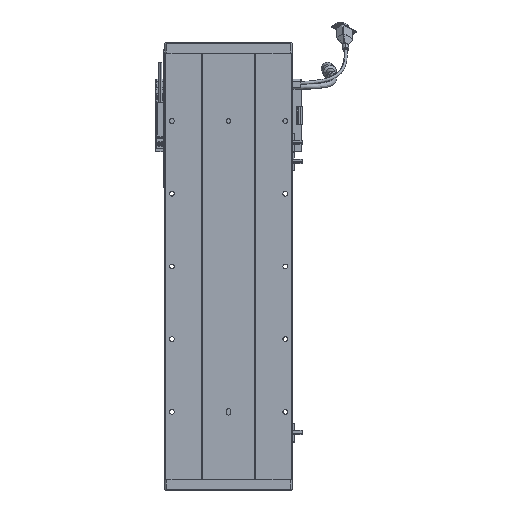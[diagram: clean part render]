
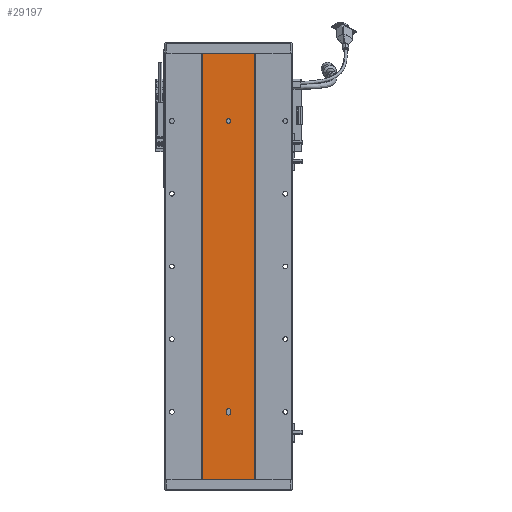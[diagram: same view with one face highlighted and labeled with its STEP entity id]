
A CAD part, front view. The second image highlights one B-rep face of the part: STEP entity #29197.
In plain terms, the highlighted planar face has unit normal (0, -1, 0).
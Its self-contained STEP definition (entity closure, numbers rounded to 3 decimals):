
#1334 = DIRECTION ( 'NONE',  ( 1., 0., 0. ) ) ;
#1369 = EDGE_LOOP ( 'NONE', ( #2979, #23431, #66218, #13831 ) ) ;
#2204 = CIRCLE ( 'NONE', #64458, 3. ) ;
#2272 = VERTEX_POINT ( 'NONE', #5736 ) ;
#2533 = AXIS2_PLACEMENT_3D ( 'NONE', #25632, #36740, #42675 ) ;
#2979 = ORIENTED_EDGE ( 'NONE', *, *, #44780, .T. ) ;
#3306 = CIRCLE ( 'NONE', #9857, 3. ) ;
#3794 = VERTEX_POINT ( 'NONE', #71679 ) ;
#5736 = CARTESIAN_POINT ( 'NONE',  ( 3280.529, 1415.701, 496.5 ) ) ;
#9106 = CARTESIAN_POINT ( 'NONE',  ( 3283.529, 1415.701, 95. ) ) ;
#9182 = CARTESIAN_POINT ( 'NONE',  ( 3280.529, 1415.701, 92. ) ) ;
#9857 = AXIS2_PLACEMENT_3D ( 'NONE', #48025, #70370, #25277 ) ;
#12422 = CARTESIAN_POINT ( 'NONE',  ( 3280.529, 1415.701, 89. ) ) ;
#13713 = FACE_BOUND ( 'NONE', #37572, .T. ) ;
#13831 = ORIENTED_EDGE ( 'NONE', *, *, #49521, .T. ) ;
#14676 = CIRCLE ( 'NONE', #64846, 3. ) ;
#14927 = VECTOR ( 'NONE', #24621, 1000. ) ;
#15120 = DIRECTION ( 'NONE',  ( 0., 1., 0. ) ) ;
#15617 = DIRECTION ( 'NONE',  ( 0., 0., 1. ) ) ;
#15790 = VECTOR ( 'NONE', #63359, 1000. ) ;
#17218 = AXIS2_PLACEMENT_3D ( 'NONE', #31940, #59837, #25774 ) ;
#17677 = CARTESIAN_POINT ( 'NONE',  ( 3280.529, 1415.701, 490.5 ) ) ;
#18105 = EDGE_CURVE ( 'NONE', #35696, #40310, #30809, .T. ) ;
#18967 = VECTOR ( 'NONE', #40368, 1000. ) ;
#19052 = CARTESIAN_POINT ( 'NONE',  ( 3280.529, 1415.701, 92. ) ) ;
#19737 = CIRCLE ( 'NONE', #2533, 3. ) ;
#20774 = EDGE_CURVE ( 'NONE', #3794, #31686, #14676, .T. ) ;
#21786 = EDGE_CURVE ( 'NONE', #31686, #35696, #2204, .T. ) ;
#23286 = CARTESIAN_POINT ( 'NONE',  ( 3244.748, 1415.701, 0. ) ) ;
#23431 = ORIENTED_EDGE ( 'NONE', *, *, #32796, .F. ) ;
#23646 = CARTESIAN_POINT ( 'NONE',  ( 3244.748, 1415.701, 587. ) ) ;
#24070 = CIRCLE ( 'NONE', #17218, 3. ) ;
#24607 = CARTESIAN_POINT ( 'NONE',  ( 3283.529, 1415.701, 95. ) ) ;
#24621 = DIRECTION ( 'NONE',  ( 1., 0., 0. ) ) ;
#24702 = EDGE_CURVE ( 'NONE', #66134, #3794, #29430, .T. ) ;
#25095 = ORIENTED_EDGE ( 'NONE', *, *, #58550, .F. ) ;
#25277 = DIRECTION ( 'NONE',  ( 0., 0., -1. ) ) ;
#25632 = CARTESIAN_POINT ( 'NONE',  ( 3280.529, 1415.701, 95. ) ) ;
#25774 = DIRECTION ( 'NONE',  ( 0., 0., -1. ) ) ;
#26406 = LINE ( 'NONE', #23646, #14927 ) ;
#27872 = LINE ( 'NONE', #40125, #18967 ) ;
#28985 = CARTESIAN_POINT ( 'NONE',  ( 3283.529, 1415.701, 92. ) ) ;
#29197 = ADVANCED_FACE ( 'NONE', ( #67575, #13713, #69321 ), #48513, .F. ) ;
#29428 = VERTEX_POINT ( 'NONE', #57576 ) ;
#29430 = LINE ( 'NONE', #34425, #62072 ) ;
#30020 = LINE ( 'NONE', #67160, #53004 ) ;
#30809 = LINE ( 'NONE', #24607, #15790 ) ;
#31191 = DIRECTION ( 'NONE',  ( 0., 0., -1. ) ) ;
#31686 = VERTEX_POINT ( 'NONE', #12422 ) ;
#31940 = CARTESIAN_POINT ( 'NONE',  ( 3280.529, 1415.701, 493.5 ) ) ;
#32796 = EDGE_CURVE ( 'NONE', #29428, #71663, #30020, .T. ) ;
#33393 = DIRECTION ( 'NONE',  ( 0., 0., -1. ) ) ;
#34126 = EDGE_CURVE ( 'NONE', #2272, #53222, #3306, .T. ) ;
#34425 = CARTESIAN_POINT ( 'NONE',  ( 3277.529, 1415.701, 95. ) ) ;
#35661 = DIRECTION ( 'NONE',  ( 0., -1., 0. ) ) ;
#35696 = VERTEX_POINT ( 'NONE', #28985 ) ;
#36134 = DIRECTION ( 'NONE',  ( 0., 0., -1. ) ) ;
#36381 = CARTESIAN_POINT ( 'NONE',  ( 3244.748, 1415.701, 587. ) ) ;
#36631 = DIRECTION ( 'NONE',  ( 0., -1., 0. ) ) ;
#36740 = DIRECTION ( 'NONE',  ( 0., -1., 0. ) ) ;
#37530 = ORIENTED_EDGE ( 'NONE', *, *, #24702, .F. ) ;
#37572 = EDGE_LOOP ( 'NONE', ( #25095, #63520 ) ) ;
#40125 = CARTESIAN_POINT ( 'NONE',  ( 3244.748, 1415.701, 587. ) ) ;
#40310 = VERTEX_POINT ( 'NONE', #9106 ) ;
#40368 = DIRECTION ( 'NONE',  ( 0., 0., -1. ) ) ;
#42675 = DIRECTION ( 'NONE',  ( 0., 0., -1. ) ) ;
#44780 = EDGE_CURVE ( 'NONE', #62058, #71663, #71396, .T. ) ;
#48025 = CARTESIAN_POINT ( 'NONE',  ( 3280.529, 1415.701, 493.5 ) ) ;
#48513 = PLANE ( 'NONE',  #68099 ) ;
#48894 = ORIENTED_EDGE ( 'NONE', *, *, #20774, .F. ) ;
#49521 = EDGE_CURVE ( 'NONE', #64510, #62058, #27872, .T. ) ;
#51635 = CARTESIAN_POINT ( 'NONE',  ( 3316.311, 1415.701, 0. ) ) ;
#53004 = VECTOR ( 'NONE', #33393, 1000. ) ;
#53222 = VERTEX_POINT ( 'NONE', #17677 ) ;
#53748 = CARTESIAN_POINT ( 'NONE',  ( 3244.748, 1415.701, 0. ) ) ;
#53817 = EDGE_LOOP ( 'NONE', ( #48894, #37530, #65119, #65499, #67753 ) ) ;
#57576 = CARTESIAN_POINT ( 'NONE',  ( 3316.311, 1415.701, 587. ) ) ;
#57925 = EDGE_CURVE ( 'NONE', #40310, #66134, #19737, .T. ) ;
#58550 = EDGE_CURVE ( 'NONE', #53222, #2272, #24070, .T. ) ;
#59837 = DIRECTION ( 'NONE',  ( 0., -1., 0. ) ) ;
#61290 = CARTESIAN_POINT ( 'NONE',  ( 3277.529, 1415.701, 95. ) ) ;
#62032 = DIRECTION ( 'NONE',  ( 0., 0., -1. ) ) ;
#62058 = VERTEX_POINT ( 'NONE', #53748 ) ;
#62072 = VECTOR ( 'NONE', #62032, 1000. ) ;
#62694 = VECTOR ( 'NONE', #1334, 1000. ) ;
#63359 = DIRECTION ( 'NONE',  ( 0., 0., 1. ) ) ;
#63520 = ORIENTED_EDGE ( 'NONE', *, *, #34126, .F. ) ;
#64458 = AXIS2_PLACEMENT_3D ( 'NONE', #19052, #35661, #36134 ) ;
#64510 = VERTEX_POINT ( 'NONE', #36381 ) ;
#64846 = AXIS2_PLACEMENT_3D ( 'NONE', #9182, #36631, #31191 ) ;
#65119 = ORIENTED_EDGE ( 'NONE', *, *, #57925, .F. ) ;
#65463 = CARTESIAN_POINT ( 'NONE',  ( 3244.748, 1415.701, 587. ) ) ;
#65499 = ORIENTED_EDGE ( 'NONE', *, *, #18105, .F. ) ;
#66134 = VERTEX_POINT ( 'NONE', #61290 ) ;
#66218 = ORIENTED_EDGE ( 'NONE', *, *, #70477, .F. ) ;
#67160 = CARTESIAN_POINT ( 'NONE',  ( 3316.311, 1415.701, 587. ) ) ;
#67575 = FACE_BOUND ( 'NONE', #53817, .T. ) ;
#67753 = ORIENTED_EDGE ( 'NONE', *, *, #21786, .F. ) ;
#68099 = AXIS2_PLACEMENT_3D ( 'NONE', #65463, #15120, #15617 ) ;
#69321 = FACE_OUTER_BOUND ( 'NONE', #1369, .T. ) ;
#70370 = DIRECTION ( 'NONE',  ( 0., -1., 0. ) ) ;
#70477 = EDGE_CURVE ( 'NONE', #64510, #29428, #26406, .T. ) ;
#71396 = LINE ( 'NONE', #23286, #62694 ) ;
#71663 = VERTEX_POINT ( 'NONE', #51635 ) ;
#71679 = CARTESIAN_POINT ( 'NONE',  ( 3277.529, 1415.701, 92. ) ) ;
